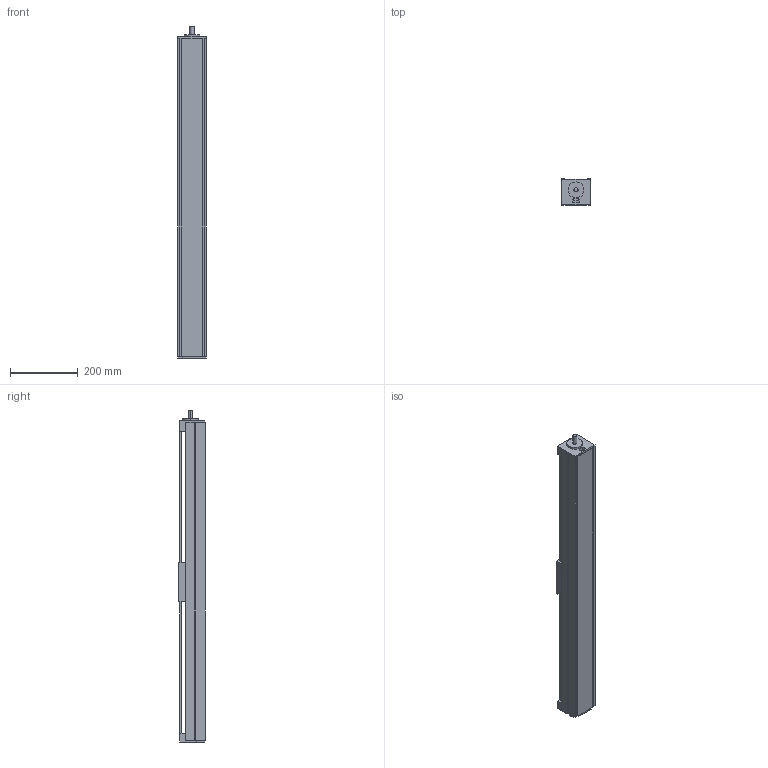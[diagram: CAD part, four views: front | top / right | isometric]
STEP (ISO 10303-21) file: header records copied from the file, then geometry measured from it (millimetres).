
FILE_DESCRIPTION (( 'STEP AP203' ), '1' );
FILE_NAME ('MSX84C-800-LL2005-P7标准面板.STEP', '2013-11-02T03:15:27', ( '微软用户' ), ( '微软中国' ), 'SwSTEP 2.0', 'SolidWorks 2010', '' );
FILE_SCHEMA (( 'CONFIG_CONTROL_DESIGN' ));
Length unit declared in the file: millimetre
Products named in the file (1): MSX84C-800-LL2005-P7梓袧醱啣
Bounding box: 84 x 78 x 978 mm (x, y, z)
Volume: 2558712.7 mm3; surface area: 691691.3 mm2
Topology: 3 solids, 3 shells, 176 faces, 489 edges, 306 vertices
Faces by surface type: plane 128, cylinder 32, cone 16
Entity records: 5506 total; most frequent: CARTESIAN_POINT 956, ORIENTED_EDGE 946, DIRECTION 891, EDGE_CURVE 473, VECTOR 409, LINE 409, VERTEX_POINT 306, AXIS2_PLACEMENT_3D 241
